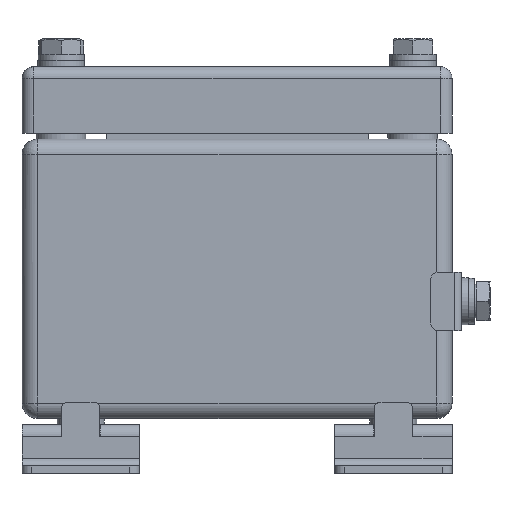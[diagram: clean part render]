
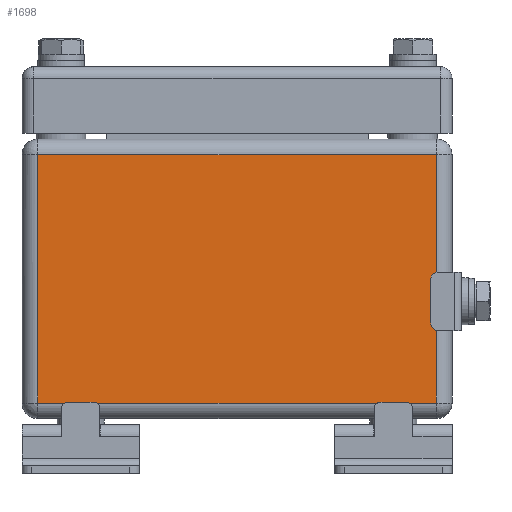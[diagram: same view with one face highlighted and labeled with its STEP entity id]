
A CAD part, front view. The second image highlights one B-rep face of the part: STEP entity #1698.
In plain terms, the highlighted planar face has unit normal (0, -1, 0).
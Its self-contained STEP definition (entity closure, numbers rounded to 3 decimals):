
#1151=CARTESIAN_POINT('',(51.0,-55.0,67.5));
#1152=VERTEX_POINT('',#1151);
#1245=CARTESIAN_POINT('',(51.0,-55.0,4.0));
#1246=VERTEX_POINT('',#1245);
#1301=CARTESIAN_POINT('',(51.0,-55.0,67.5));
#1302=DIRECTION('',(0.0,0.0,-1.0));
#1303=VECTOR('',#1302,63.5);
#1304=LINE('',#1301,#1303);
#1305=EDGE_CURVE('',#1152,#1246,#1304,.T.);
#1333=CARTESIAN_POINT('',(-51.0,-55.0,67.5));
#1334=VERTEX_POINT('',#1333);
#1368=CARTESIAN_POINT('',(-51.0,-55.0,4.0));
#1369=VERTEX_POINT('',#1368);
#1400=CARTESIAN_POINT('',(51.0,-55.0,4.0));
#1401=DIRECTION('',(-1.0,0.0,0.0));
#1402=VECTOR('',#1401,102.0);
#1403=LINE('',#1400,#1402);
#1404=EDGE_CURVE('',#1246,#1369,#1403,.T.);
#1422=CARTESIAN_POINT('',(-51.0,-55.0,4.0));
#1423=DIRECTION('',(0.0,0.0,1.0));
#1424=VECTOR('',#1423,63.5);
#1425=LINE('',#1422,#1424);
#1426=EDGE_CURVE('',#1369,#1334,#1425,.T.);
#1459=CARTESIAN_POINT('',(-51.0,-55.0,67.5));
#1460=DIRECTION('',(1.0,0.0,0.0));
#1461=VECTOR('',#1460,102.0);
#1462=LINE('',#1459,#1461);
#1463=EDGE_CURVE('',#1334,#1152,#1462,.T.);
#1687=CARTESIAN_POINT('',(55.0,-55.0,0.0));
#1688=DIRECTION('',(0.0,-1.0,0.0));
#1689=DIRECTION('',(0.0,0.0,-1.0));
#1690=AXIS2_PLACEMENT_3D('',#1687,#1688,#1689);
#1691=PLANE('',#1690);
#1692=ORIENTED_EDGE('',*,*,#1305,.F.);
#1693=ORIENTED_EDGE('',*,*,#1463,.F.);
#1694=ORIENTED_EDGE('',*,*,#1426,.F.);
#1695=ORIENTED_EDGE('',*,*,#1404,.F.);
#1696=EDGE_LOOP('',(#1692,#1693,#1694,#1695));
#1697=FACE_OUTER_BOUND('',#1696,.T.);
#1698=ADVANCED_FACE('',(#1697),#1691,.T.);
